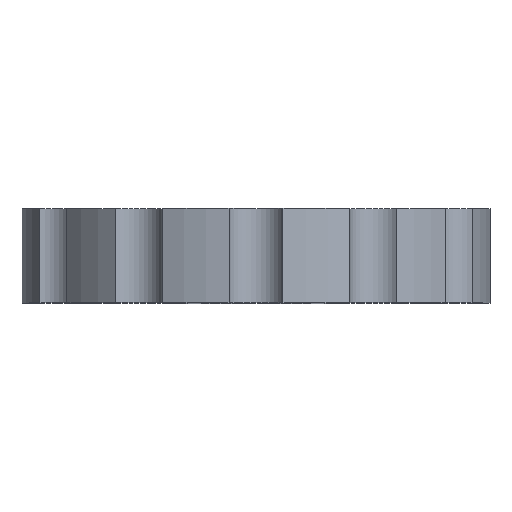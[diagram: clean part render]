
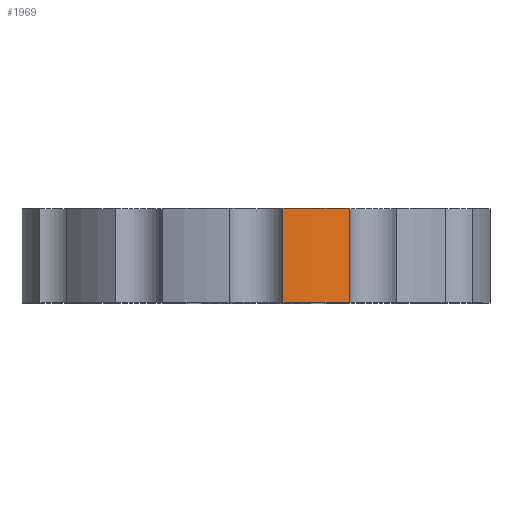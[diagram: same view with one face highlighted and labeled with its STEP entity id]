
A CAD part, top view. The second image highlights one B-rep face of the part: STEP entity #1969.
In plain terms, the highlighted cylindrical face has radius 13 mm (diameter 26 mm), a partial arc.
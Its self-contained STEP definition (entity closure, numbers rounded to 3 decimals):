
#45 = PLANE('',#46);
#46 = AXIS2_PLACEMENT_3D('',#47,#48,#49);
#47 = CARTESIAN_POINT('',(0.,56.3,0.)
  );
#48 = DIRECTION('',(0.,1.,0.));
#49 = DIRECTION('',(0.,-0.,1.));
#100 = PLANE('',#101);
#101 = AXIS2_PLACEMENT_3D('',#102,#103,#104);
#102 = CARTESIAN_POINT('',(0.,61.5,0.)
  );
#103 = DIRECTION('',(0.,1.,0.));
#104 = DIRECTION('',(0.,-0.,1.));
#200 = VERTEX_POINT('',#201);
#201 = CARTESIAN_POINT('',(1.489,56.3,12.914));
#220 = CYLINDRICAL_SURFACE('',#221,1.6);
#221 = AXIS2_PLACEMENT_3D('',#222,#223,#224);
#222 = CARTESIAN_POINT('',(0.,55.5,13.5));
#223 = DIRECTION('',(0.,-1.,-0.));
#224 = DIRECTION('',(1.,0.,0.));
#232 = EDGE_CURVE('',#200,#233,#235,.T.);
#233 = VERTEX_POINT('',#234);
#234 = CARTESIAN_POINT('',(5.168,56.3,11.929));
#235 = SURFACE_CURVE('',#236,(#241,#248),.PCURVE_S1.);
#236 = CIRCLE('',#237,13.);
#237 = AXIS2_PLACEMENT_3D('',#238,#239,#240);
#238 = CARTESIAN_POINT('',(0.,56.3,0.));
#239 = DIRECTION('',(-0.,1.,0.));
#240 = DIRECTION('',(1.,0.,0.));
#241 = PCURVE('',#45,#242);
#242 = DEFINITIONAL_REPRESENTATION('',(#243),#247);
#243 = CIRCLE('',#244,13.);
#244 = AXIS2_PLACEMENT_2D('',#245,#246);
#245 = CARTESIAN_POINT('',(0.,0.));
#246 = DIRECTION('',(0.,1.));
#247 = ( GEOMETRIC_REPRESENTATION_CONTEXT(2) 
PARAMETRIC_REPRESENTATION_CONTEXT() REPRESENTATION_CONTEXT('2D SPACE',''
  ) );
#248 = PCURVE('',#249,#254);
#249 = CYLINDRICAL_SURFACE('',#250,13.);
#250 = AXIS2_PLACEMENT_3D('',#251,#252,#253);
#251 = CARTESIAN_POINT('',(0.,56.3,0.));
#252 = DIRECTION('',(0.,-1.,-0.));
#253 = DIRECTION('',(1.,0.,0.));
#254 = DEFINITIONAL_REPRESENTATION('',(#255),#259);
#255 = LINE('',#256,#257);
#256 = CARTESIAN_POINT('',(-0.,0.));
#257 = VECTOR('',#258,1.);
#258 = DIRECTION('',(-1.,0.));
#259 = ( GEOMETRIC_REPRESENTATION_CONTEXT(2) 
PARAMETRIC_REPRESENTATION_CONTEXT() REPRESENTATION_CONTEXT('2D SPACE',''
  ) );
#282 = CYLINDRICAL_SURFACE('',#283,1.6);
#283 = AXIS2_PLACEMENT_3D('',#284,#285,#286);
#284 = CARTESIAN_POINT('',(6.75,55.5,11.691));
#285 = DIRECTION('',(0.,-1.,-0.));
#286 = DIRECTION('',(1.,0.,0.));
#964 = VERTEX_POINT('',#965);
#965 = CARTESIAN_POINT('',(1.489,61.5,12.914));
#991 = EDGE_CURVE('',#964,#992,#994,.T.);
#992 = VERTEX_POINT('',#993);
#993 = CARTESIAN_POINT('',(5.168,61.5,11.929));
#994 = SURFACE_CURVE('',#995,(#1000,#1007),.PCURVE_S1.);
#995 = CIRCLE('',#996,13.);
#996 = AXIS2_PLACEMENT_3D('',#997,#998,#999);
#997 = CARTESIAN_POINT('',(0.,61.5,0.));
#998 = DIRECTION('',(-0.,1.,0.));
#999 = DIRECTION('',(1.,0.,0.));
#1000 = PCURVE('',#100,#1001);
#1001 = DEFINITIONAL_REPRESENTATION('',(#1002),#1006);
#1002 = CIRCLE('',#1003,13.);
#1003 = AXIS2_PLACEMENT_2D('',#1004,#1005);
#1004 = CARTESIAN_POINT('',(0.,0.));
#1005 = DIRECTION('',(0.,1.));
#1006 = ( GEOMETRIC_REPRESENTATION_CONTEXT(2) 
PARAMETRIC_REPRESENTATION_CONTEXT() REPRESENTATION_CONTEXT('2D SPACE',''
  ) );
#1007 = PCURVE('',#249,#1008);
#1008 = DEFINITIONAL_REPRESENTATION('',(#1009),#1013);
#1009 = LINE('',#1010,#1011);
#1010 = CARTESIAN_POINT('',(-0.,-5.2));
#1011 = VECTOR('',#1012,1.);
#1012 = DIRECTION('',(-1.,0.));
#1013 = ( GEOMETRIC_REPRESENTATION_CONTEXT(2) 
PARAMETRIC_REPRESENTATION_CONTEXT() REPRESENTATION_CONTEXT('2D SPACE',''
  ) );
#1950 = EDGE_CURVE('',#992,#233,#1951,.T.);
#1951 = SURFACE_CURVE('',#1952,(#1956,#1962),.PCURVE_S1.);
#1952 = LINE('',#1953,#1954);
#1953 = CARTESIAN_POINT('',(5.168,56.3,11.929));
#1954 = VECTOR('',#1955,1.);
#1955 = DIRECTION('',(0.,-1.,-0.));
#1956 = PCURVE('',#282,#1957);
#1957 = DEFINITIONAL_REPRESENTATION('',(#1958),#1961);
#1958 = B_SPLINE_CURVE_WITH_KNOTS('',1,(#1959,#1960),.UNSPECIFIED.,.F.,
  .F.,(2,2),(-5.2,0.),.PIECEWISE_BEZIER_KNOTS.);
#1959 = CARTESIAN_POINT('',(-3.291,-6.));
#1960 = CARTESIAN_POINT('',(-3.291,-0.8));
#1961 = ( GEOMETRIC_REPRESENTATION_CONTEXT(2) 
PARAMETRIC_REPRESENTATION_CONTEXT() REPRESENTATION_CONTEXT('2D SPACE',''
  ) );
#1962 = PCURVE('',#249,#1963);
#1963 = DEFINITIONAL_REPRESENTATION('',(#1964),#1967);
#1964 = B_SPLINE_CURVE_WITH_KNOTS('',1,(#1965,#1966),.UNSPECIFIED.,.F.,
  .F.,(2,2),(-5.2,0.),.PIECEWISE_BEZIER_KNOTS.);
#1965 = CARTESIAN_POINT('',(-5.121,-5.2));
#1966 = CARTESIAN_POINT('',(-5.121,0.));
#1967 = ( GEOMETRIC_REPRESENTATION_CONTEXT(2) 
PARAMETRIC_REPRESENTATION_CONTEXT() REPRESENTATION_CONTEXT('2D SPACE',''
  ) );
#1969 = ADVANCED_FACE('',(#1970),#249,.T.);
#1970 = FACE_BOUND('',#1971,.F.);
#1971 = EDGE_LOOP('',(#1972,#1973,#1992,#1993));
#1972 = ORIENTED_EDGE('',*,*,#232,.F.);
#1973 = ORIENTED_EDGE('',*,*,#1974,.F.);
#1974 = EDGE_CURVE('',#964,#200,#1975,.T.);
#1975 = SURFACE_CURVE('',#1976,(#1980,#1986),.PCURVE_S1.);
#1976 = LINE('',#1977,#1978);
#1977 = CARTESIAN_POINT('',(1.489,56.3,12.914));
#1978 = VECTOR('',#1979,1.);
#1979 = DIRECTION('',(0.,-1.,-0.));
#1980 = PCURVE('',#249,#1981);
#1981 = DEFINITIONAL_REPRESENTATION('',(#1982),#1985);
#1982 = B_SPLINE_CURVE_WITH_KNOTS('',1,(#1983,#1984),.UNSPECIFIED.,.F.,
  .F.,(2,2),(-5.2,0.),.PIECEWISE_BEZIER_KNOTS.);
#1983 = CARTESIAN_POINT('',(-4.827,-5.2));
#1984 = CARTESIAN_POINT('',(-4.827,0.));
#1985 = ( GEOMETRIC_REPRESENTATION_CONTEXT(2) 
PARAMETRIC_REPRESENTATION_CONTEXT() REPRESENTATION_CONTEXT('2D SPACE',''
  ) );
#1986 = PCURVE('',#220,#1987);
#1987 = DEFINITIONAL_REPRESENTATION('',(#1988),#1991);
#1988 = B_SPLINE_CURVE_WITH_KNOTS('',1,(#1989,#1990),.UNSPECIFIED.,.F.,
  .F.,(2,2),(-5.2,0.),.PIECEWISE_BEZIER_KNOTS.);
#1989 = CARTESIAN_POINT('',(-0.375,-6.));
#1990 = CARTESIAN_POINT('',(-0.375,-0.8));
#1991 = ( GEOMETRIC_REPRESENTATION_CONTEXT(2) 
PARAMETRIC_REPRESENTATION_CONTEXT() REPRESENTATION_CONTEXT('2D SPACE',''
  ) );
#1992 = ORIENTED_EDGE('',*,*,#991,.T.);
#1993 = ORIENTED_EDGE('',*,*,#1950,.T.);
